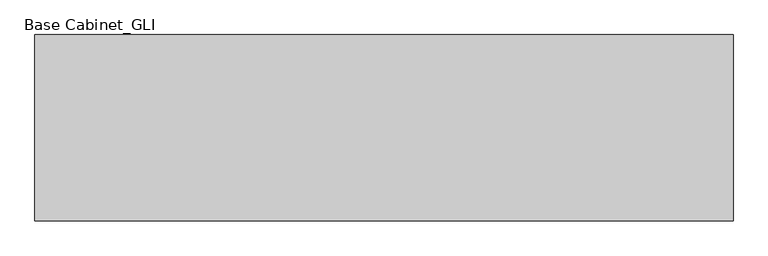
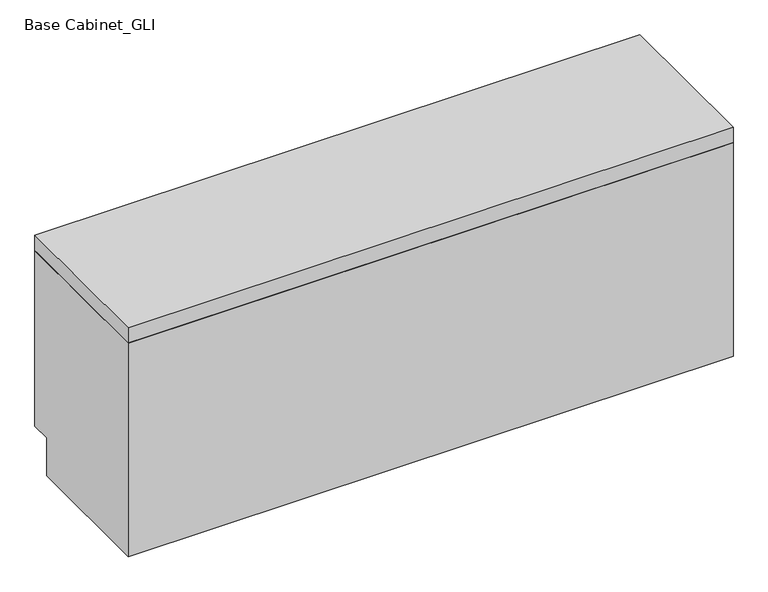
"""IFC4 building model written with IfcOpenShell, lengths in millimetres: proxy geometry, Base Cabinet_GLI : 900h x400d."""

from ifc_helpers import new_model, si_unit, frame, origin, place, context, project, spatial, polyline, outline, extrude, source, transform, mapped, element, save


def base_cabinet_gli_ead87e26(model_context):
    return source(origin(), model_context, "Body", "SweptSolid", [
        extrude(outline(polyline([(400.0, 100.0), (350.0, 100.0), (350.0, 0.0), (0.0, 0.0), (0.0, 560.0), (400.0, 560.0), (400.0, 100.0)])), frame((0.0, 0.0, 0.0), z_axis=(1.0, 0.0, 0.0), x_axis=(0.0, 1.0, 0.0)), (0.0, 0.0, 1.0), 1500.0),
        extrude(outline(polyline([(1500.0, 0.0), (0.0, 0.0), (0.0, 400.0), (1500.0, 400.0), (1500.0, 0.0)])), frame((0.0, 0.0, 560.0), z_axis=(0.0, 0.0, 1.0), x_axis=(1.0, 0.0, 0.0)), (0.0, 0.0, 1.0), 40.0),
    ])


if __name__ == "__main__":
    model = new_model("IFC4")
    model_context = context("Model", 3, world=origin())
    ifc_project = project(units=[si_unit("LENGTHUNIT", "METRE", prefix="MILLI")], contexts=[model_context])
    site = spatial("IfcSite", under=ifc_project)
    building = spatial("IfcBuilding", under=site)
    placement = place(None, origin())
    base_cabinet_gli_shape = base_cabinet_gli_ead87e26(model_context)
    element("IfcBuildingElementProxy", 1, Name="Base Cabinet_GLI : 900h x400d", ObjectType="Base Cabinet_GLI : 900h x400d", at=placement, inside=building, context=model_context, shape_type="MappedRepresentation", body=[
        mapped(base_cabinet_gli_shape, transform((0.0, 0.0, 0.0), x_axis=(1.0, 0.0, 0.0), y_axis=(0.0, 1.0, 0.0), z_axis=(0.0, 0.0, 1.0))),
    ])
    save(model, "model.ifc")
